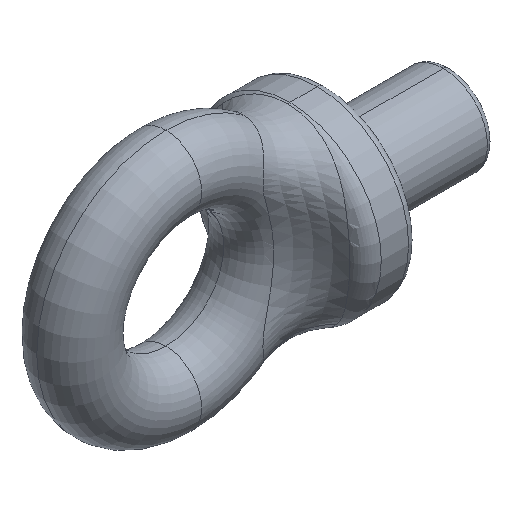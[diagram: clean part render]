
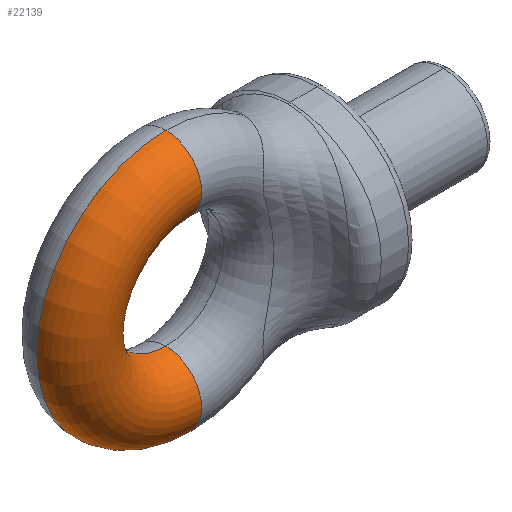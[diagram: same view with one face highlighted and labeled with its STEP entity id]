
A CAD part, isometric view. The second image highlights one B-rep face of the part: STEP entity #22139.
In plain terms, the highlighted toroidal (fillet/blend) face has major radius 44.5 mm and minor radius 17 mm.
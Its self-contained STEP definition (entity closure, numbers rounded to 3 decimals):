
#4622 = DIRECTION ( 'NONE',  ( 0., 0., -1. ) ) ;
#4623 = DIRECTION ( 'NONE',  ( 1., 0., 0. ) ) ;
#4624 = CARTESIAN_POINT ( 'NONE',  ( 0., 0., -44.5 ) ) ;
#4625 = AXIS2_PLACEMENT_3D ( 'NONE', #4624, #4623, #4622 ) ;
#4626 = CIRCLE ( 'NONE', #4625, 17. ) ;
#4730 = DIRECTION ( 'NONE',  ( 0., 0., 1. ) ) ;
#4731 = DIRECTION ( 'NONE',  ( 0., 1., 0. ) ) ;
#4732 = AXIS2_PLACEMENT_3D ( 'NONE', #4739, #4731, #4730 ) ;
#4733 = TOROIDAL_SURFACE ( 'NONE', #4732, 44.5, 17. ) ;
#4734 = FACE_OUTER_BOUND ( 'NONE', #22057, .T. ) ;
#4739 = CARTESIAN_POINT ( 'NONE',  ( 0., 0., 0. ) ) ;
#8778 = CARTESIAN_POINT ( 'NONE',  ( 0., 0., -27.5 ) ) ;
#8783 = CARTESIAN_POINT ( 'NONE',  ( 0., 0., -61.5 ) ) ;
#9595 = DIRECTION ( 'NONE',  ( 0., 0., 1. ) ) ;
#9596 = DIRECTION ( 'NONE',  ( 0., 1., 0. ) ) ;
#9597 = AXIS2_PLACEMENT_3D ( 'NONE', #9614, #9596, #9595 ) ;
#9598 = CIRCLE ( 'NONE', #9597, 27.5 ) ;
#9614 = CARTESIAN_POINT ( 'NONE',  ( 0., 0., 0. ) ) ;
#9773 = DIRECTION ( 'NONE',  ( 0., 0., 1. ) ) ;
#9774 = DIRECTION ( 'NONE',  ( 0., 1., 0. ) ) ;
#9775 = CARTESIAN_POINT ( 'NONE',  ( 0., 0., 0. ) ) ;
#9776 = AXIS2_PLACEMENT_3D ( 'NONE', #9775, #9774, #9773 ) ;
#9818 = CIRCLE ( 'NONE', #9776, 61.5 ) ;
#9925 = CARTESIAN_POINT ( 'NONE',  ( 0., 0., 61.5 ) ) ;
#11738 = DIRECTION ( 'NONE',  ( 0., 0., 1. ) ) ;
#11739 = DIRECTION ( 'NONE',  ( -1., 0., 0. ) ) ;
#11740 = CARTESIAN_POINT ( 'NONE',  ( 0., 0., 44.5 ) ) ;
#11741 = AXIS2_PLACEMENT_3D ( 'NONE', #11740, #11739, #11738 ) ;
#11742 = CIRCLE ( 'NONE', #11741, 17. ) ;
#20671 = VERTEX_POINT ( 'NONE', #24284 ) ;
#20867 = VERTEX_POINT ( 'NONE', #8783 ) ;
#20869 = VERTEX_POINT ( 'NONE', #8778 ) ;
#21034 = EDGE_CURVE ( 'NONE', #20869, #20671, #9598, .T. ) ;
#21102 = EDGE_CURVE ( 'NONE', #20867, #21124, #9818, .T. ) ;
#21124 = VERTEX_POINT ( 'NONE', #9925 ) ;
#21955 = EDGE_CURVE ( 'NONE', #20671, #21124, #11742, .T. ) ;
#22042 = ORIENTED_EDGE ( 'NONE', *, *, #22053, .F. ) ;
#22044 = ORIENTED_EDGE ( 'NONE', *, *, #21034, .T. ) ;
#22053 = EDGE_CURVE ( 'NONE', #20869, #20867, #4626, .T. ) ;
#22055 = ORIENTED_EDGE ( 'NONE', *, *, #21955, .T. ) ;
#22057 = EDGE_LOOP ( 'NONE', ( #22059, #22042, #22044, #22055 ) ) ;
#22059 = ORIENTED_EDGE ( 'NONE', *, *, #21102, .F. ) ;
#22139 = ADVANCED_FACE ( 'NONE', ( #4734 ), #4733, .T. ) ;
#24284 = CARTESIAN_POINT ( 'NONE',  ( 0., 0., 27.5 ) ) ;
